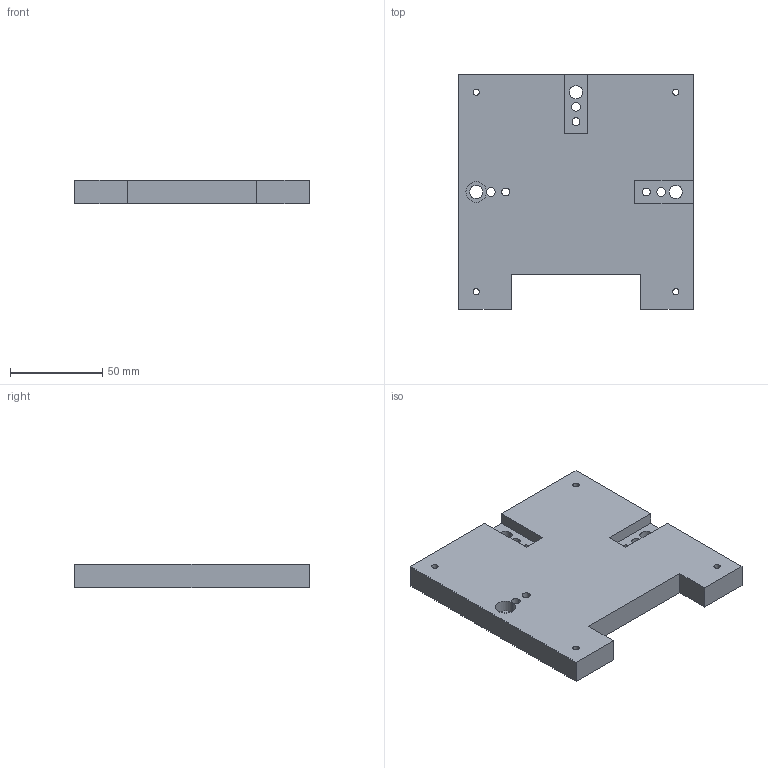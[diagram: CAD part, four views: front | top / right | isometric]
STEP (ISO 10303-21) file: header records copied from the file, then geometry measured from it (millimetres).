
FILE_DESCRIPTION (( 'STEP AP214' ), '1' );
FILE_NAME ('Mount.STEP', '2023-11-29T18:51:05', ( '' ), ( '' ), 'SwSTEP 2.0', 'SolidWorks 2023', '' );
FILE_SCHEMA (( 'AUTOMOTIVE_DESIGN' ));
Length unit declared in the file: inch
Products named in the file (1): Mount
Bounding box: 127 x 127 x 12.7 mm (x, y, z)
Volume: 180152.4 mm3; surface area: 38750.8 mm2
Topology: 1 solids, 1 shells, 47 faces, 132 edges, 88 vertices
Faces by surface type: cylinder 28, plane 19
Entity records: 1621 total; most frequent: DIRECTION 284, CARTESIAN_POINT 268, ORIENTED_EDGE 264, EDGE_CURVE 132, AXIS2_PLACEMENT_3D 104, VERTEX_POINT 88, LINE 76, VECTOR 76
